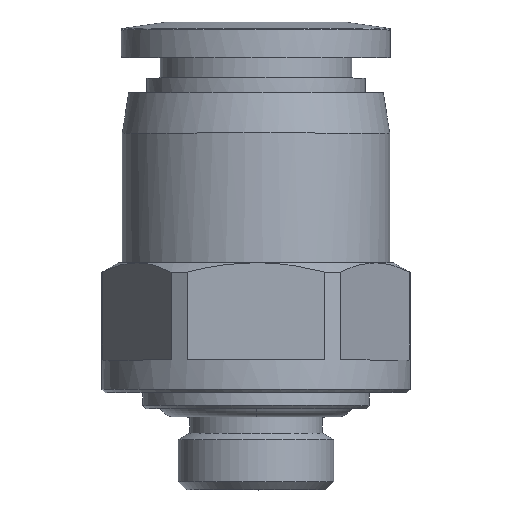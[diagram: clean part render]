
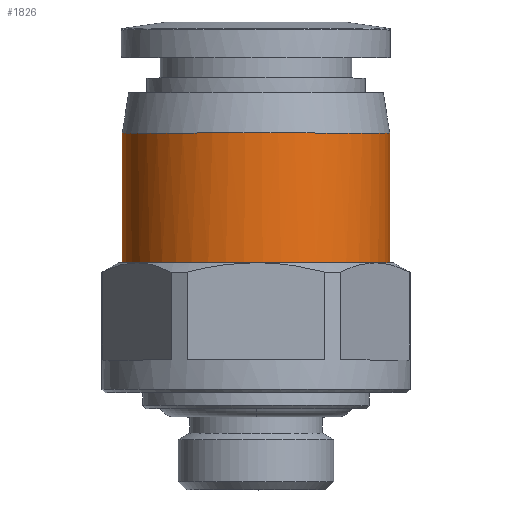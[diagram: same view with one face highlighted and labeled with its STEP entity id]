
A CAD part, top view. The second image highlights one B-rep face of the part: STEP entity #1826.
In plain terms, the highlighted cylindrical face has radius 8.25 mm (diameter 16.5 mm), a partial arc.
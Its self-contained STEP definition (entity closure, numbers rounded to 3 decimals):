
#73 = CARTESIAN_POINT ( 'NONE',  ( 8.25, 22., 0. ) ) ;
#92 = CARTESIAN_POINT ( 'NONE',  ( -2.657, 14., 7.829 ) ) ;
#234 = LINE ( 'NONE', #1614, #2379 ) ;
#237 = CARTESIAN_POINT ( 'NONE',  ( 8.25, 14., 0. ) ) ;
#254 = CARTESIAN_POINT ( 'NONE',  ( 6.216, 14., 5.451 ) ) ;
#304 = CARTESIAN_POINT ( 'NONE',  ( 7.209, 22., 4.155 ) ) ;
#323 = CARTESIAN_POINT ( 'NONE',  ( -8.25, 14., 0. ) ) ;
#351 = CARTESIAN_POINT ( 'NONE',  ( -1.079, 14., 8.197 ) ) ;
#368 = CARTESIAN_POINT ( 'NONE',  ( -7.16, 14., 4.133 ) ) ;
#384 = CARTESIAN_POINT ( 'NONE',  ( -7.415, 14., 3.657 ) ) ;
#412 = CARTESIAN_POINT ( 'NONE',  ( 8.25, 14., 0. ) ) ;
#511 = ORIENTED_EDGE ( 'NONE', *, *, #2988, .T. ) ;
#543 = CARTESIAN_POINT ( 'NONE',  ( 5.451, 14., 6.216 ) ) ;
#611 = CARTESIAN_POINT ( 'NONE',  ( -4.133, 14., 7.16 ) ) ;
#643 = CARTESIAN_POINT ( 'NONE',  ( 8.035, 22., 2.159 ) ) ;
#742 = CYLINDRICAL_SURFACE ( 'NONE', #3240, 8.25 ) ;
#788 = CARTESIAN_POINT ( 'NONE',  ( 7.829, 14., 2.657 ) ) ;
#852 = VERTEX_POINT ( 'NONE', #1395 ) ;
#873 = CARTESIAN_POINT ( 'NONE',  ( -7.986, 14., 2.141 ) ) ;
#891 = CARTESIAN_POINT ( 'NONE',  ( -2.14, 14., 7.986 ) ) ;
#1010 = DIRECTION ( 'NONE',  ( 0., 1., 0. ) ) ;
#1048 = B_SPLINE_CURVE_WITH_KNOTS ( 'NONE', 3,
 ( #73, #2514, #643, #304, #1945, #1931, #3033, #1155, #2243, #1188, #3320, #1682, #3276, #1957, #3016, #3048, #1649, #1389 ),
 .UNSPECIFIED., .F., .F.,
 ( 4, 2, 2, 2, 2, 2, 2, 2, 4 ),
 ( 0.5, 0.563, 0.625, 0.688, 0.75, 0.813, 0.875, 0.938, 1. ),
 .UNSPECIFIED. ) ;
#1075 = CARTESIAN_POINT ( 'NONE',  ( 4.133, 14., 7.16 ) ) ;
#1114 = DIRECTION ( 'NONE',  ( 0., 1., 0. ) ) ;
#1155 = CARTESIAN_POINT ( 'NONE',  ( 2.159, 22., 8.035 ) ) ;
#1158 = CARTESIAN_POINT ( 'NONE',  ( 2.14, 14., 7.986 ) ) ;
#1188 = CARTESIAN_POINT ( 'NONE',  ( -1.08, 22., 8.25 ) ) ;
#1281 = CARTESIAN_POINT ( 'NONE',  ( -8.25, 18., 0. ) ) ;
#1317 = VECTOR ( 'NONE', #1010, 1000. ) ;
#1328 = CARTESIAN_POINT ( 'NONE',  ( 8.25, 14., 0.541 ) ) ;
#1367 = EDGE_CURVE ( 'NONE', #2155, #852, #3144, .T. ) ;
#1389 = CARTESIAN_POINT ( 'NONE',  ( -8.25, 22., 0. ) ) ;
#1395 = CARTESIAN_POINT ( 'NONE',  ( -8.25, 14., 0. ) ) ;
#1419 = CARTESIAN_POINT ( 'NONE',  ( -3.657, 14., 7.415 ) ) ;
#1436 = CARTESIAN_POINT ( 'NONE',  ( -6.559, 14., 5.034 ) ) ;
#1445 = ORIENTED_EDGE ( 'NONE', *, *, #2921, .T. ) ;
#1550 = EDGE_CURVE ( 'NONE', #852, #2652, #2571, .T. ) ;
#1598 = CARTESIAN_POINT ( 'NONE',  ( 7.16, 14., 4.133 ) ) ;
#1614 = CARTESIAN_POINT ( 'NONE',  ( 8.25, 18., 0. ) ) ;
#1617 = CARTESIAN_POINT ( 'NONE',  ( 3.657, 14., 7.415 ) ) ;
#1649 = CARTESIAN_POINT ( 'NONE',  ( -8.25, 22., 1.08 ) ) ;
#1662 = EDGE_LOOP ( 'NONE', ( #2677, #1445, #511, #2751 ) ) ;
#1677 = VERTEX_POINT ( 'NONE', #2925 ) ;
#1682 = CARTESIAN_POINT ( 'NONE',  ( -4.155, 22., 7.209 ) ) ;
#1715 = CARTESIAN_POINT ( 'NONE',  ( -5.034, 14., 6.559 ) ) ;
#1730 = CARTESIAN_POINT ( 'NONE',  ( 0.541, 14., 8.25 ) ) ;
#1826 = ADVANCED_FACE ( 'NONE', ( #3110 ), #742, .T. ) ;
#1861 = CARTESIAN_POINT ( 'NONE',  ( 7.415, 14., 3.657 ) ) ;
#1931 = CARTESIAN_POINT ( 'NONE',  ( 5.07, 22., 6.597 ) ) ;
#1945 = CARTESIAN_POINT ( 'NONE',  ( 6.597, 22., 5.07 ) ) ;
#1957 = CARTESIAN_POINT ( 'NONE',  ( -6.597, 22., 5.07 ) ) ;
#1964 = CARTESIAN_POINT ( 'NONE',  ( -8.25, 22., 0. ) ) ;
#2006 = CARTESIAN_POINT ( 'NONE',  ( 0., 18., 0. ) ) ;
#2155 = VERTEX_POINT ( 'NONE', #412 ) ;
#2230 = CARTESIAN_POINT ( 'NONE',  ( 1.079, 14., 8.197 ) ) ;
#2243 = CARTESIAN_POINT ( 'NONE',  ( 1.08, 22., 8.25 ) ) ;
#2246 = CARTESIAN_POINT ( 'NONE',  ( -0.541, 14., 8.25 ) ) ;
#2274 = DIRECTION ( 'NONE',  ( -1., 0., 0. ) ) ;
#2379 = VECTOR ( 'NONE', #1114, 1000. ) ;
#2396 = CARTESIAN_POINT ( 'NONE',  ( 8.197, 14., 1.079 ) ) ;
#2414 = CARTESIAN_POINT ( 'NONE',  ( 5.034, 14., 6.559 ) ) ;
#2514 = CARTESIAN_POINT ( 'NONE',  ( 8.25, 22., 1.08 ) ) ;
#2571 = LINE ( 'NONE', #1281, #1317 ) ;
#2652 = VERTEX_POINT ( 'NONE', #1964 ) ;
#2677 = ORIENTED_EDGE ( 'NONE', *, *, #1367, .F. ) ;
#2686 = CARTESIAN_POINT ( 'NONE',  ( 6.559, 14., 5.034 ) ) ;
#2705 = CARTESIAN_POINT ( 'NONE',  ( 2.657, 14., 7.829 ) ) ;
#2751 = ORIENTED_EDGE ( 'NONE', *, *, #1550, .F. ) ;
#2787 = CARTESIAN_POINT ( 'NONE',  ( -5.451, 14., 6.216 ) ) ;
#2803 = CARTESIAN_POINT ( 'NONE',  ( -8.197, 14., 1.078 ) ) ;
#2816 = CARTESIAN_POINT ( 'NONE',  ( -8.25, 14., 0.542 ) ) ;
#2921 = EDGE_CURVE ( 'NONE', #2155, #1677, #234, .T. ) ;
#2925 = CARTESIAN_POINT ( 'NONE',  ( 8.25, 22., 0. ) ) ;
#2988 = EDGE_CURVE ( 'NONE', #1677, #2652, #1048, .T. ) ;
#3016 = CARTESIAN_POINT ( 'NONE',  ( -7.209, 22., 4.155 ) ) ;
#3033 = CARTESIAN_POINT ( 'NONE',  ( 4.155, 22., 7.209 ) ) ;
#3048 = CARTESIAN_POINT ( 'NONE',  ( -8.035, 22., 2.159 ) ) ;
#3110 = FACE_OUTER_BOUND ( 'NONE', #1662, .T. ) ;
#3144 = B_SPLINE_CURVE_WITH_KNOTS ( 'NONE', 3,
 ( #237, #1328, #2396, #3489, #788, #1861, #1598, #2686, #254, #543, #2414, #1075, #1617, #2705, #1158, #2230, #1730, #2246, #351, #891, #92, #1419, #611, #1715, #2787, #3324, #1436, #368, #384, #3308, #873, #2803, #2816, #323 ),
 .UNSPECIFIED., .F., .F.,
 ( 4, 2, 2, 2, 2, 2, 2, 2, 2, 2, 2, 2, 2, 2, 2, 2, 4 ),
 ( 0.5, 0.531, 0.563, 0.594, 0.625, 0.656, 0.688, 0.719, 0.75, 0.781, 0.812, 0.844, 0.875, 0.906, 0.938, 0.969, 1. ),
 .UNSPECIFIED. ) ;
#3240 = AXIS2_PLACEMENT_3D ( 'NONE', #2006, #3383, #2274 ) ;
#3276 = CARTESIAN_POINT ( 'NONE',  ( -5.07, 22., 6.597 ) ) ;
#3308 = CARTESIAN_POINT ( 'NONE',  ( -7.829, 14., 2.657 ) ) ;
#3320 = CARTESIAN_POINT ( 'NONE',  ( -2.159, 22., 8.035 ) ) ;
#3324 = CARTESIAN_POINT ( 'NONE',  ( -6.216, 14., 5.451 ) ) ;
#3383 = DIRECTION ( 'NONE',  ( 0., 1., 0. ) ) ;
#3489 = CARTESIAN_POINT ( 'NONE',  ( 7.986, 14., 2.14 ) ) ;
